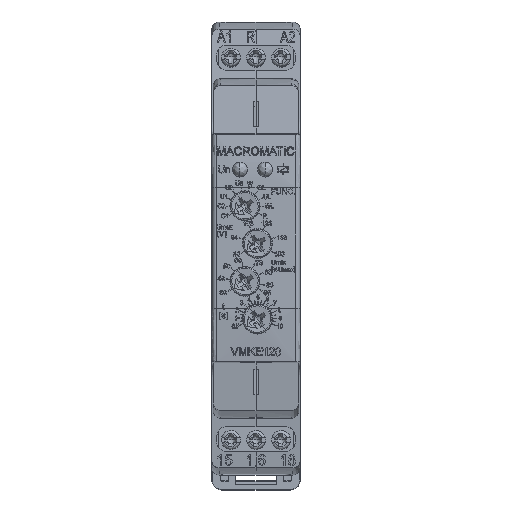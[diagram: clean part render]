
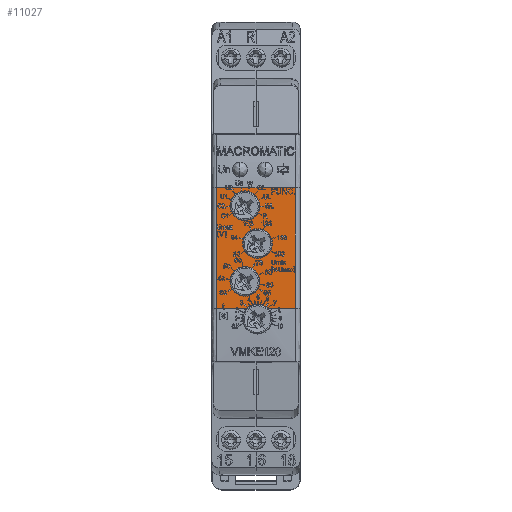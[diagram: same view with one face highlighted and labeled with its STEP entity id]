
A CAD part, top view. The second image highlights one B-rep face of the part: STEP entity #11027.
In plain terms, the highlighted planar face has unit normal (0, 0, 1).
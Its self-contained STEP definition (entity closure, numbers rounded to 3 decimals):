
#10428 = VERTEX_POINT('',#10429);
#10429 = CARTESIAN_POINT('',(-7.8,-12.15,
    64.));
#10528 = VERTEX_POINT('',#10529);
#10529 = CARTESIAN_POINT('',(-7.8,11.85,
    64.));
#10607 = EDGE_CURVE('',#10428,#10528,#10608,.T.);
#10608 = B_SPLINE_CURVE_WITH_KNOTS('',1,(#10609,#10610),.UNSPECIFIED.,
  .F.,.F.,(2,2),(-24.,0.),
  .PIECEWISE_BEZIER_KNOTS.);
#10609 = CARTESIAN_POINT('',(-7.8,-12.15,
    64.));
#10610 = CARTESIAN_POINT('',(-7.8,11.85,
    64.));
#10663 = VERTEX_POINT('',#10664);
#10664 = CARTESIAN_POINT('',(7.8,11.85,
    64.));
#10719 = EDGE_CURVE('',#10663,#10720,#10722,.T.);
#10720 = VERTEX_POINT('',#10721);
#10721 = CARTESIAN_POINT('',(7.8,-12.15,
    64.));
#10722 = B_SPLINE_CURVE_WITH_KNOTS('',1,(#10723,#10724),.UNSPECIFIED.,
  .F.,.F.,(2,2),(-24.,0.),
  .PIECEWISE_BEZIER_KNOTS.);
#10723 = CARTESIAN_POINT('',(7.8,11.85,
    64.));
#10724 = CARTESIAN_POINT('',(7.8,-12.15,
    64.));
#10822 = VERTEX_POINT('',#10823);
#10823 = CARTESIAN_POINT('',(2.407,-12.15,
    64.));
#10844 = VERTEX_POINT('',#10845);
#10845 = CARTESIAN_POINT('',(-1.807,-12.15,
    64.));
#10852 = EDGE_CURVE('',#10844,#10428,#10853,.T.);
#10853 = B_SPLINE_CURVE_WITH_KNOTS('',1,(#10854,#10855),.UNSPECIFIED.,
  .F.,.F.,(2,2),(16.133,22.126),
  .PIECEWISE_BEZIER_KNOTS.);
#10854 = CARTESIAN_POINT('',(-1.807,-12.15,
    64.));
#10855 = CARTESIAN_POINT('',(-7.8,-12.15,
    64.));
#10864 = EDGE_CURVE('',#10720,#10822,#10865,.T.);
#10865 = B_SPLINE_CURVE_WITH_KNOTS('',1,(#10866,#10867),.UNSPECIFIED.,
  .F.,.F.,(2,2),(6.526,11.918),
  .PIECEWISE_BEZIER_KNOTS.);
#10866 = CARTESIAN_POINT('',(7.8,-12.15,
    64.));
#10867 = CARTESIAN_POINT('',(2.407,-12.15,
    64.));
#10966 = EDGE_CURVE('',#10528,#10663,#10967,.T.);
#10967 = B_SPLINE_CURVE_WITH_KNOTS('',1,(#10968,#10969),.UNSPECIFIED.,
  .F.,.F.,(2,2),(-22.126,-6.526),
  .PIECEWISE_BEZIER_KNOTS.);
#10968 = CARTESIAN_POINT('',(-7.8,11.85,
    64.));
#10969 = CARTESIAN_POINT('',(7.8,11.85,
    64.));
#11027 = ADVANCED_FACE('',(#11028,#11043,#11065,#11087),#11109,.T.);
#11028 = FACE_BOUND('',#11029,.T.);
#11029 = EDGE_LOOP('',(#11030,#11038,#11039,#11040,#11041,#11042));
#11030 = ORIENTED_EDGE('',*,*,#11031,.T.);
#11031 = EDGE_CURVE('',#10844,#10822,#11032,.T.);
#11032 = ( BOUNDED_CURVE() B_SPLINE_CURVE(2,(#11033,#11034,#11035,#11036
,#11037),.UNSPECIFIED.,.F.,.F.) B_SPLINE_CURVE_WITH_KNOTS((3,2,3),(
2.331,4.673,7.015),.UNSPECIFIED.) CURVE() 
GEOMETRIC_REPRESENTATION_ITEM() RATIONAL_B_SPLINE_CURVE((1.,
0.924,1.,0.924,1.)) REPRESENTATION_ITEM('') );
#11033 = CARTESIAN_POINT('',(-1.807,-12.15,
    64.));
#11034 = CARTESIAN_POINT('',(-0.935,-11.275,
    64.));
#11035 = CARTESIAN_POINT('',(0.3,-11.275,
    64.));
#11036 = CARTESIAN_POINT('',(1.535,-11.275,
    64.));
#11037 = CARTESIAN_POINT('',(2.407,-12.15,
    64.));
#11038 = ORIENTED_EDGE('',*,*,#10864,.F.);
#11039 = ORIENTED_EDGE('',*,*,#10719,.F.);
#11040 = ORIENTED_EDGE('',*,*,#10966,.F.);
#11041 = ORIENTED_EDGE('',*,*,#10607,.F.);
#11042 = ORIENTED_EDGE('',*,*,#10852,.F.);
#11043 = FACE_BOUND('',#11044,.T.);
#11044 = EDGE_LOOP('',(#11045,#11057));
#11045 = ORIENTED_EDGE('',*,*,#11046,.T.);
#11046 = EDGE_CURVE('',#11047,#11049,#11051,.T.);
#11047 = VERTEX_POINT('',#11048);
#11048 = CARTESIAN_POINT('',(-5.175,-6.75,64.));
#11049 = VERTEX_POINT('',#11050);
#11050 = CARTESIAN_POINT('',(0.775,-6.75,64.));
#11051 = ( BOUNDED_CURVE() B_SPLINE_CURVE(2,(#11052,#11053,#11054,#11055
,#11056),.UNSPECIFIED.,.F.,.F.) B_SPLINE_CURVE_WITH_KNOTS((3,2,3),(0.,
4.673,9.346),.PIECEWISE_BEZIER_KNOTS.) CURVE() 
GEOMETRIC_REPRESENTATION_ITEM() RATIONAL_B_SPLINE_CURVE((1.,
0.707,1.,0.707,1.)) REPRESENTATION_ITEM('') );
#11052 = CARTESIAN_POINT('',(-5.175,-6.75,64.));
#11053 = CARTESIAN_POINT('',(-5.175,-3.775,64.));
#11054 = CARTESIAN_POINT('',(-2.2,-3.775,64.));
#11055 = CARTESIAN_POINT('',(0.775,-3.775,64.));
#11056 = CARTESIAN_POINT('',(0.775,-6.75,64.));
#11057 = ORIENTED_EDGE('',*,*,#11058,.T.);
#11058 = EDGE_CURVE('',#11049,#11047,#11059,.T.);
#11059 = ( BOUNDED_CURVE() B_SPLINE_CURVE(2,(#11060,#11061,#11062,#11063
,#11064),.UNSPECIFIED.,.F.,.F.) B_SPLINE_CURVE_WITH_KNOTS((3,2,3),(0.,
4.673,9.346),.PIECEWISE_BEZIER_KNOTS.) CURVE() 
GEOMETRIC_REPRESENTATION_ITEM() RATIONAL_B_SPLINE_CURVE((1.,
0.707,1.,0.707,1.)) REPRESENTATION_ITEM('') );
#11060 = CARTESIAN_POINT('',(0.775,-6.75,64.));
#11061 = CARTESIAN_POINT('',(0.775,-9.725,64.));
#11062 = CARTESIAN_POINT('',(-2.2,-9.725,64.));
#11063 = CARTESIAN_POINT('',(-5.175,-9.725,64.));
#11064 = CARTESIAN_POINT('',(-5.175,-6.75,64.));
#11065 = FACE_BOUND('',#11066,.T.);
#11066 = EDGE_LOOP('',(#11067,#11079));
#11067 = ORIENTED_EDGE('',*,*,#11068,.T.);
#11068 = EDGE_CURVE('',#11069,#11071,#11073,.T.);
#11069 = VERTEX_POINT('',#11070);
#11070 = CARTESIAN_POINT('',(-5.175,8.25,64.));
#11071 = VERTEX_POINT('',#11072);
#11072 = CARTESIAN_POINT('',(0.775,8.25,64.));
#11073 = ( BOUNDED_CURVE() B_SPLINE_CURVE(2,(#11074,#11075,#11076,#11077
,#11078),.UNSPECIFIED.,.F.,.F.) B_SPLINE_CURVE_WITH_KNOTS((3,2,3),(0.,
4.673,9.346),.PIECEWISE_BEZIER_KNOTS.) CURVE() 
GEOMETRIC_REPRESENTATION_ITEM() RATIONAL_B_SPLINE_CURVE((1.,
0.707,1.,0.707,1.)) REPRESENTATION_ITEM('') );
#11074 = CARTESIAN_POINT('',(-5.175,8.25,64.));
#11075 = CARTESIAN_POINT('',(-5.175,11.225,64.));
#11076 = CARTESIAN_POINT('',(-2.2,11.225,64.));
#11077 = CARTESIAN_POINT('',(0.775,11.225,64.));
#11078 = CARTESIAN_POINT('',(0.775,8.25,64.));
#11079 = ORIENTED_EDGE('',*,*,#11080,.T.);
#11080 = EDGE_CURVE('',#11071,#11069,#11081,.T.);
#11081 = ( BOUNDED_CURVE() B_SPLINE_CURVE(2,(#11082,#11083,#11084,#11085
,#11086),.UNSPECIFIED.,.F.,.F.) B_SPLINE_CURVE_WITH_KNOTS((3,2,3),(0.,
4.673,9.346),.PIECEWISE_BEZIER_KNOTS.) CURVE() 
GEOMETRIC_REPRESENTATION_ITEM() RATIONAL_B_SPLINE_CURVE((1.,
0.707,1.,0.707,1.)) REPRESENTATION_ITEM('') );
#11082 = CARTESIAN_POINT('',(0.775,8.25,64.));
#11083 = CARTESIAN_POINT('',(0.775,5.275,64.));
#11084 = CARTESIAN_POINT('',(-2.2,5.275,64.));
#11085 = CARTESIAN_POINT('',(-5.175,5.275,64.));
#11086 = CARTESIAN_POINT('',(-5.175,8.25,64.));
#11087 = FACE_BOUND('',#11088,.T.);
#11088 = EDGE_LOOP('',(#11089,#11101));
#11089 = ORIENTED_EDGE('',*,*,#11090,.T.);
#11090 = EDGE_CURVE('',#11091,#11093,#11095,.T.);
#11091 = VERTEX_POINT('',#11092);
#11092 = CARTESIAN_POINT('',(3.275,0.75,64.));
#11093 = VERTEX_POINT('',#11094);
#11094 = CARTESIAN_POINT('',(-2.675,0.75,64.));
#11095 = ( BOUNDED_CURVE() B_SPLINE_CURVE(2,(#11096,#11097,#11098,#11099
,#11100),.UNSPECIFIED.,.F.,.F.) B_SPLINE_CURVE_WITH_KNOTS((3,2,3),(0.,
4.673,9.346),.PIECEWISE_BEZIER_KNOTS.) CURVE() 
GEOMETRIC_REPRESENTATION_ITEM() RATIONAL_B_SPLINE_CURVE((1.,
0.707,1.,0.707,1.)) REPRESENTATION_ITEM('') );
#11096 = CARTESIAN_POINT('',(3.275,0.75,64.));
#11097 = CARTESIAN_POINT('',(3.275,-2.225,64.));
#11098 = CARTESIAN_POINT('',(0.3,-2.225,64.));
#11099 = CARTESIAN_POINT('',(-2.675,-2.225,64.));
#11100 = CARTESIAN_POINT('',(-2.675,0.75,64.));
#11101 = ORIENTED_EDGE('',*,*,#11102,.T.);
#11102 = EDGE_CURVE('',#11093,#11091,#11103,.T.);
#11103 = ( BOUNDED_CURVE() B_SPLINE_CURVE(2,(#11104,#11105,#11106,#11107
,#11108),.UNSPECIFIED.,.F.,.F.) B_SPLINE_CURVE_WITH_KNOTS((3,2,3),(0.,
4.673,9.346),.PIECEWISE_BEZIER_KNOTS.) CURVE() 
GEOMETRIC_REPRESENTATION_ITEM() RATIONAL_B_SPLINE_CURVE((1.,
0.707,1.,0.707,1.)) REPRESENTATION_ITEM('') );
#11104 = CARTESIAN_POINT('',(-2.675,0.75,64.));
#11105 = CARTESIAN_POINT('',(-2.675,3.725,64.));
#11106 = CARTESIAN_POINT('',(0.3,3.725,64.));
#11107 = CARTESIAN_POINT('',(3.275,3.725,64.));
#11108 = CARTESIAN_POINT('',(3.275,0.75,64.));
#11109 = PLANE('',#11110);
#11110 = AXIS2_PLACEMENT_3D('',#11111,#11112,#11113);
#11111 = CARTESIAN_POINT('',(9.48,-14.67,
    64.));
#11112 = DIRECTION('',(0.,0.,1.));
#11113 = DIRECTION('',(1.,0.,-0.));
